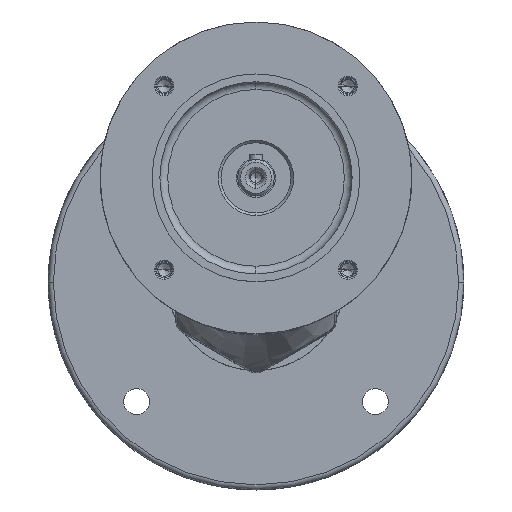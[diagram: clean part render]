
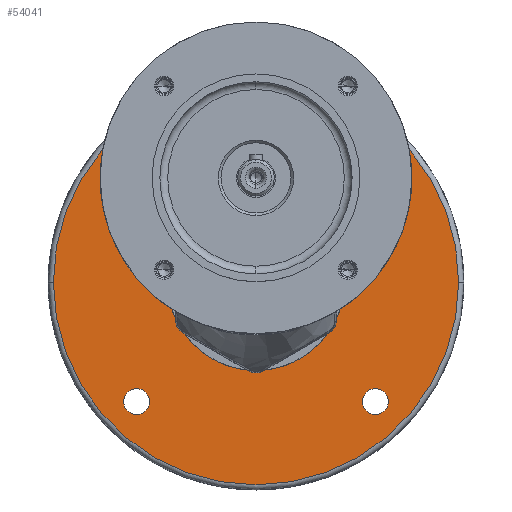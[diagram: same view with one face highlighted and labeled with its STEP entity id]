
A CAD part, top view. The second image highlights one B-rep face of the part: STEP entity #54041.
In plain terms, the highlighted planar face has unit normal (0, 0, 1) as drawn and (0, 0, -1) by its records, which use the part's own axes.
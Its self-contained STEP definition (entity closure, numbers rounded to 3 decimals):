
#22694 = CARTESIAN_POINT ( 'NONE',  ( -34., 0., -11. ) ) ;
#22729 = CARTESIAN_POINT ( 'NONE',  ( 34., 0., -11. ) ) ;
#22730 = DIRECTION ( 'NONE',  ( 1., 0., 0. ) ) ;
#22731 = DIRECTION ( 'NONE',  ( 0., 0., 1. ) ) ;
#22732 = CARTESIAN_POINT ( 'NONE',  ( 0., 0., -11. ) ) ;
#22733 = AXIS2_PLACEMENT_3D ( 'NONE', #22732, #22731, #22730 ) ;
#22734 = CIRCLE ( 'NONE', #22733, 34. ) ;
#28738 = DIRECTION ( 'NONE',  ( 1., 0., 0. ) ) ;
#28739 = DIRECTION ( 'NONE',  ( 0., 0., 1. ) ) ;
#28740 = CARTESIAN_POINT ( 'NONE',  ( 0., 0., -11. ) ) ;
#28741 = AXIS2_PLACEMENT_3D ( 'NONE', #28740, #28739, #28738 ) ;
#28749 = CIRCLE ( 'NONE', #28741, 34. ) ;
#30815 = DIRECTION ( 'NONE',  ( 1., 0., 0. ) ) ;
#30816 = DIRECTION ( 'NONE',  ( 0., 0., 1. ) ) ;
#30817 = CARTESIAN_POINT ( 'NONE',  ( 0., 78., -11. ) ) ;
#30818 = AXIS2_PLACEMENT_3D ( 'NONE', #30817, #30816, #30815 ) ;
#30819 = PLANE ( 'NONE',  #30818 ) ;
#30820 = FACE_BOUND ( 'NONE', #54166, .T. ) ;
#30821 = FACE_OUTER_BOUND ( 'NONE', #54156, .T. ) ;
#30822 = FACE_BOUND ( 'NONE', #54142, .T. ) ;
#30823 = FACE_BOUND ( 'NONE', #54123, .T. ) ;
#30824 = FACE_BOUND ( 'NONE', #54059, .T. ) ;
#30825 = FACE_BOUND ( 'NONE', #54043, .T. ) ;
#30857 = DIRECTION ( 'NONE',  ( 1., 0., 0. ) ) ;
#30858 = DIRECTION ( 'NONE',  ( 0., 0., -1. ) ) ;
#30859 = CARTESIAN_POINT ( 'NONE',  ( 45.962, -45.962, -11. ) ) ;
#30860 = AXIS2_PLACEMENT_3D ( 'NONE', #30859, #30858, #30857 ) ;
#30861 = CIRCLE ( 'NONE', #30860, 5. ) ;
#30990 = DIRECTION ( 'NONE',  ( 1., 0., 0. ) ) ;
#30991 = DIRECTION ( 'NONE',  ( 0., 0., -1. ) ) ;
#30992 = CARTESIAN_POINT ( 'NONE',  ( -45.962, -45.962, -11. ) ) ;
#30993 = AXIS2_PLACEMENT_3D ( 'NONE', #30992, #30991, #30990 ) ;
#30994 = CIRCLE ( 'NONE', #30993, 5. ) ;
#31007 = DIRECTION ( 'NONE',  ( 1., 0., 0. ) ) ;
#31008 = DIRECTION ( 'NONE',  ( 0., 0., -1. ) ) ;
#31009 = CARTESIAN_POINT ( 'NONE',  ( 45.962, 45.962, -11. ) ) ;
#31010 = AXIS2_PLACEMENT_3D ( 'NONE', #31009, #31008, #31007 ) ;
#31011 = CIRCLE ( 'NONE', #31010, 5. ) ;
#31043 = DIRECTION ( 'NONE',  ( 1., 0., 0. ) ) ;
#31044 = DIRECTION ( 'NONE',  ( 0., 0., -1. ) ) ;
#31045 = CARTESIAN_POINT ( 'NONE',  ( -45.962, 45.962, -11. ) ) ;
#31046 = AXIS2_PLACEMENT_3D ( 'NONE', #31045, #31044, #31043 ) ;
#31047 = CIRCLE ( 'NONE', #31046, 5. ) ;
#31107 = DIRECTION ( 'NONE',  ( 1., 0., 0. ) ) ;
#31108 = DIRECTION ( 'NONE',  ( 0., 0., 1. ) ) ;
#31109 = CARTESIAN_POINT ( 'NONE',  ( 0., 0., -11. ) ) ;
#31110 = AXIS2_PLACEMENT_3D ( 'NONE', #31109, #31108, #31107 ) ;
#31111 = CIRCLE ( 'NONE', #31110, 78. ) ;
#48691 = CARTESIAN_POINT ( 'NONE',  ( -50.962, -45.962, -11. ) ) ;
#48692 = CARTESIAN_POINT ( 'NONE',  ( -40.962, -45.962, -11. ) ) ;
#48693 = DIRECTION ( 'NONE',  ( 1., 0., 0. ) ) ;
#48694 = DIRECTION ( 'NONE',  ( 0., 0., -1. ) ) ;
#48695 = CARTESIAN_POINT ( 'NONE',  ( -45.962, -45.962, -11. ) ) ;
#48696 = AXIS2_PLACEMENT_3D ( 'NONE', #48695, #48694, #48693 ) ;
#48697 = CIRCLE ( 'NONE', #48696, 5. ) ;
#48756 = CARTESIAN_POINT ( 'NONE',  ( 40.962, -45.962, -11. ) ) ;
#48757 = CARTESIAN_POINT ( 'NONE',  ( 50.962, -45.962, -11. ) ) ;
#48758 = DIRECTION ( 'NONE',  ( 1., 0., 0. ) ) ;
#48759 = DIRECTION ( 'NONE',  ( 0., 0., -1. ) ) ;
#48760 = CARTESIAN_POINT ( 'NONE',  ( 45.962, -45.962, -11. ) ) ;
#48761 = AXIS2_PLACEMENT_3D ( 'NONE', #48760, #48759, #48758 ) ;
#48762 = CIRCLE ( 'NONE', #48761, 5. ) ;
#48773 = CARTESIAN_POINT ( 'NONE',  ( 45.962, 45.962, -11. ) ) ;
#48820 = CARTESIAN_POINT ( 'NONE',  ( 40.962, 45.962, -11. ) ) ;
#48821 = CARTESIAN_POINT ( 'NONE',  ( 50.962, 45.962, -11. ) ) ;
#48822 = DIRECTION ( 'NONE',  ( 1., 0., 0. ) ) ;
#48823 = DIRECTION ( 'NONE',  ( 0., 0., -1. ) ) ;
#48824 = AXIS2_PLACEMENT_3D ( 'NONE', #48773, #48823, #48822 ) ;
#48825 = CIRCLE ( 'NONE', #48824, 5. ) ;
#50338 = CARTESIAN_POINT ( 'NONE',  ( -50.962, 45.962, -11. ) ) ;
#50339 = CARTESIAN_POINT ( 'NONE',  ( -40.962, 45.962, -11. ) ) ;
#50340 = DIRECTION ( 'NONE',  ( 1., 0., 0. ) ) ;
#50341 = DIRECTION ( 'NONE',  ( 0., 0., -1. ) ) ;
#50342 = CARTESIAN_POINT ( 'NONE',  ( -45.962, 45.962, -11. ) ) ;
#50343 = AXIS2_PLACEMENT_3D ( 'NONE', #50342, #50341, #50340 ) ;
#50344 = CIRCLE ( 'NONE', #50343, 5. ) ;
#52783 = EDGE_CURVE ( 'NONE', #52786, #52787, #59881, .T. ) ;
#52786 = VERTEX_POINT ( 'NONE', #61482 ) ;
#52787 = VERTEX_POINT ( 'NONE', #61481 ) ;
#52926 = VERTEX_POINT ( 'NONE', #22694 ) ;
#52932 = EDGE_CURVE ( 'NONE', #52935, #52926, #22734, .T. ) ;
#52935 = VERTEX_POINT ( 'NONE', #22729 ) ;
#53654 = EDGE_CURVE ( 'NONE', #52926, #52935, #28749, .T. ) ;
#54041 = ADVANCED_FACE ( 'NONE', ( #30825, #30824, #30823, #30822, #30821, #30820 ), #30819, .F. ) ;
#54043 = EDGE_LOOP ( 'NONE', ( #54046, #54054 ) ) ;
#54046 = ORIENTED_EDGE ( 'NONE', *, *, #57003, .F. ) ;
#54054 = ORIENTED_EDGE ( 'NONE', *, *, #54057, .F. ) ;
#54057 = EDGE_CURVE ( 'NONE', #57009, #57005, #30861, .T. ) ;
#54059 = EDGE_LOOP ( 'NONE', ( #54269, #54118 ) ) ;
#54118 = ORIENTED_EDGE ( 'NONE', *, *, #54121, .F. ) ;
#54121 = EDGE_CURVE ( 'NONE', #56949, #56947, #30994, .T. ) ;
#54123 = EDGE_LOOP ( 'NONE', ( #54130, #54135 ) ) ;
#54130 = ORIENTED_EDGE ( 'NONE', *, *, #57041, .F. ) ;
#54135 = ORIENTED_EDGE ( 'NONE', *, *, #54139, .F. ) ;
#54139 = EDGE_CURVE ( 'NONE', #57048, #57043, #31011, .T. ) ;
#54142 = EDGE_LOOP ( 'NONE', ( #54147, #54151 ) ) ;
#54147 = ORIENTED_EDGE ( 'NONE', *, *, #57135, .F. ) ;
#54151 = ORIENTED_EDGE ( 'NONE', *, *, #54154, .F. ) ;
#54154 = EDGE_CURVE ( 'NONE', #57138, #57136, #31047, .T. ) ;
#54156 = EDGE_LOOP ( 'NONE', ( #54163, #54219 ) ) ;
#54163 = ORIENTED_EDGE ( 'NONE', *, *, #52783, .F. ) ;
#54166 = EDGE_LOOP ( 'NONE', ( #54222, #54224 ) ) ;
#54187 = EDGE_CURVE ( 'NONE', #52787, #52786, #31111, .T. ) ;
#54219 = ORIENTED_EDGE ( 'NONE', *, *, #54187, .F. ) ;
#54222 = ORIENTED_EDGE ( 'NONE', *, *, #52932, .T. ) ;
#54224 = ORIENTED_EDGE ( 'NONE', *, *, #53654, .T. ) ;
#54269 = ORIENTED_EDGE ( 'NONE', *, *, #56945, .F. ) ;
#56945 = EDGE_CURVE ( 'NONE', #56947, #56949, #48697, .T. ) ;
#56947 = VERTEX_POINT ( 'NONE', #48692 ) ;
#56949 = VERTEX_POINT ( 'NONE', #48691 ) ;
#57003 = EDGE_CURVE ( 'NONE', #57005, #57009, #48762, .T. ) ;
#57005 = VERTEX_POINT ( 'NONE', #48757 ) ;
#57009 = VERTEX_POINT ( 'NONE', #48756 ) ;
#57041 = EDGE_CURVE ( 'NONE', #57043, #57048, #48825, .T. ) ;
#57043 = VERTEX_POINT ( 'NONE', #48821 ) ;
#57048 = VERTEX_POINT ( 'NONE', #48820 ) ;
#57135 = EDGE_CURVE ( 'NONE', #57136, #57138, #50344, .T. ) ;
#57136 = VERTEX_POINT ( 'NONE', #50339 ) ;
#57138 = VERTEX_POINT ( 'NONE', #50338 ) ;
#59877 = DIRECTION ( 'NONE',  ( 1., 0., 0. ) ) ;
#59878 = DIRECTION ( 'NONE',  ( 0., 0., 1. ) ) ;
#59879 = CARTESIAN_POINT ( 'NONE',  ( 0., 0., -11. ) ) ;
#59880 = AXIS2_PLACEMENT_3D ( 'NONE', #59879, #59878, #59877 ) ;
#59881 = CIRCLE ( 'NONE', #59880, 78. ) ;
#61481 = CARTESIAN_POINT ( 'NONE',  ( -78., 0., -11. ) ) ;
#61482 = CARTESIAN_POINT ( 'NONE',  ( 78., 0., -11. ) ) ;
